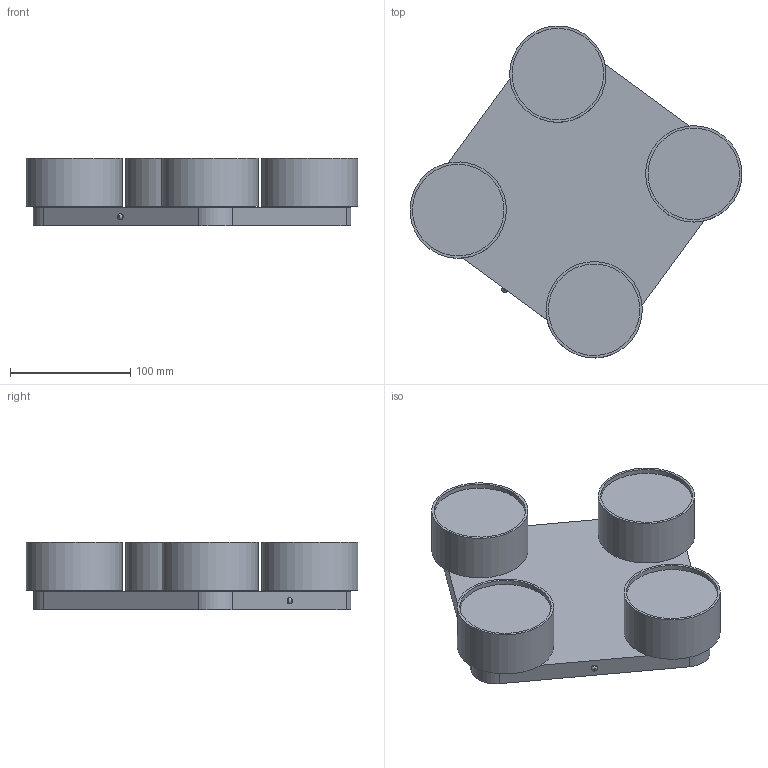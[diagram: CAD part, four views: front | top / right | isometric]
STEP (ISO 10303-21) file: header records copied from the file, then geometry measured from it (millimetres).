
FILE_DESCRIPTION(/* description */ (''),/* implementation_level */ '2;1');
FILE_NAME(/* name */ 'D:\TK Lighting\2021\Space\3401\Space3401.stp',/* time_stamp */ '2021-02-01T19:14:33+01:00',/* author */ ('Admin'),/* organization */ (''),/* preprocessor_version */ 'ST-DEVELOPER v16.5',/* originating_system */ 'Autodesk Inventor 2017',/* authorisation */ '');
FILE_SCHEMA (('AUTOMOTIVE_DESIGN { 1 0 10303 214 3 1 1 }'));
Products named in the file (3): Space3401; Zawiesie; klosz
Assembly tree (5 placements, depth 2):
  Space3401
    Zawiesie
    klosz  x4
Bounding box: 275.65 x 275.64 x 56.1 mm (x, y, z)
Volume: 1326899.3 mm3; surface area: 175207.1 mm2
Topology: 5 solids, 5 shells, 49 faces, 83 edges, 57 vertices
Faces by surface type: plane 27, cylinder 21, bspline 1
Full cylindrical faces by diameter (mm): 5 x1, 10 x8, 76 x4, 80 x4
Entity records: 843 total; most frequent: CARTESIAN_POINT 143, DIRECTION 140, ORIENTED_EDGE 88, AXIS2_PLACEMENT_3D 62, EDGE_CURVE 44, EDGE_LOOP 43, VERTEX_POINT 35, STYLED_ITEM 30
